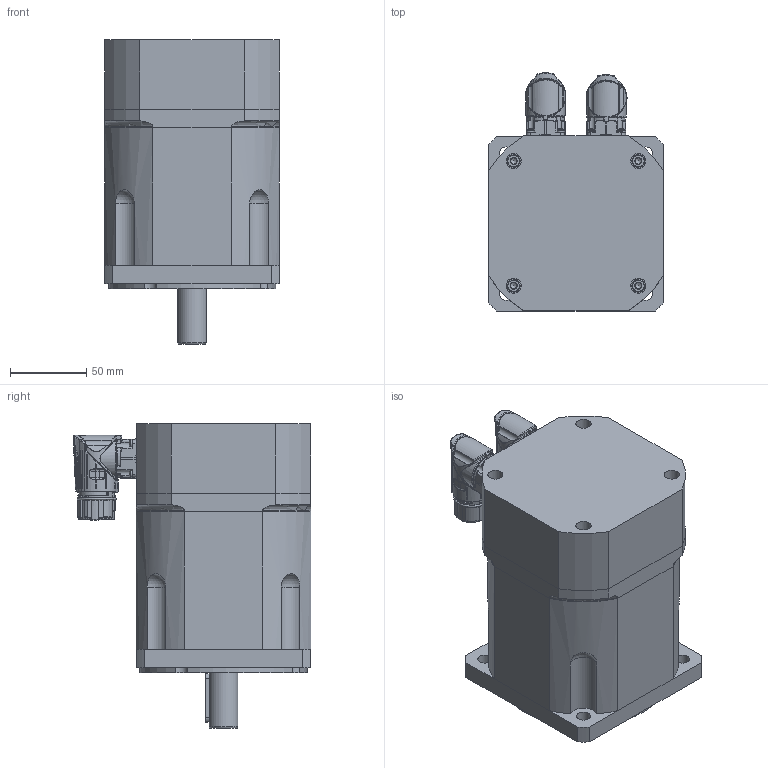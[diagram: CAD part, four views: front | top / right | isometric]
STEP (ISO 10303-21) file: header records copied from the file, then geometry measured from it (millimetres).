
FILE_DESCRIPTION(/* description */ (''),/* implementation_level */ '2;1');
FILE_NAME(/* name */ 'C:\Users\Public\Documents\Autodesk\Inventor LT 2014\Workspace\TG4\DSM5_4x_xxx7\DSM5_41_xxx7.stp',/* time_stamp */ '2016-03-14T13:42:19+01:00',/* author */ ('motion'),/* organization */ (''),/* preprocessor_version */ 'ST-DEVELOPER v15.2',/* originating_system */ 'Autodesk Inventor LT ',/* authorisation */ '');
FILE_SCHEMA (('AUTOMOTIVE_DESIGN { 1 0 10303 214 3 1 1 }'));
Products named in the file (1): DSM5_41_xxx7
Bounding box: 115 x 156.43 x 200.5 mm (x, y, z)
Volume: 2007560.3 mm3; surface area: 204365.1 mm2
Topology: 15 solids, 17 shells, 3084 faces, 7788 edges, 4688 vertices
Faces by surface type: cylinder 883, bspline 853, plane 596, torus 382, cone 250, sphere 120
Full cylindrical faces by diameter (mm): 1.2 x17, 2 x6, 2.15 x6, 2.224 x8, 2.5 x8, 2.7 x8, 3 x1, 4.5 x2, 4.917 x1, 5 x8, 5.5 x3, 5.9 x2, 6 x4, 8.5 x4, 9 x4, 10 x8, 11 x4, 15.2 x1, 19 x1, 19.1 x1, 21.6 x1, 22.5 x1, 23 x2, 24.4 x1, 25 x1, 42 x1, 52 x2, 90 x1
Entity records: 190329 total; most frequent: CARTESIAN_POINT 120176, ORIENTED_EDGE 14668, DIRECTION 12871, EDGE_CURVE 7334, AXIS2_PLACEMENT_3D 5525, VERTEX_POINT 4596, EDGE_LOOP 3476, ADVANCED_FACE 3081
